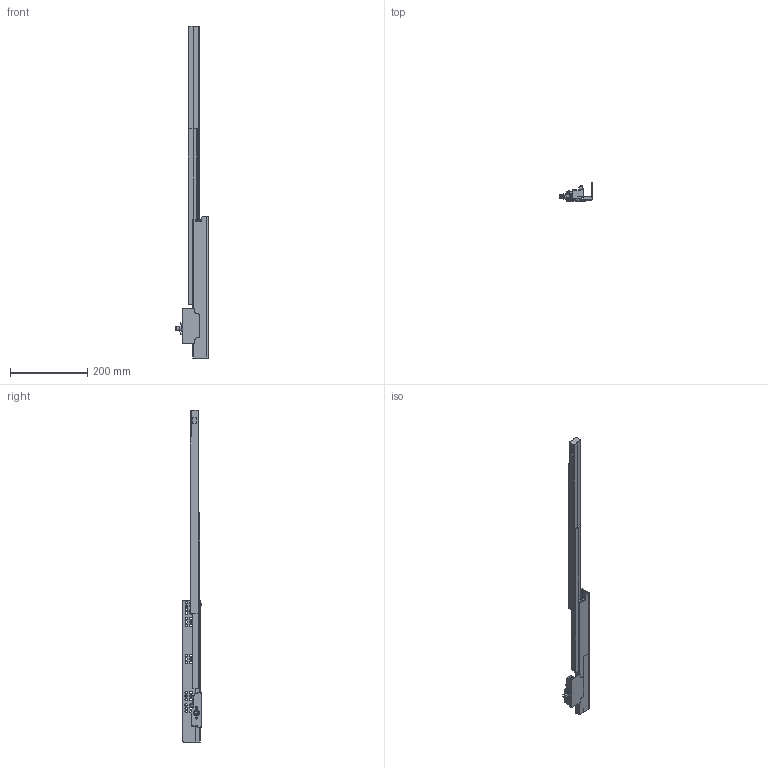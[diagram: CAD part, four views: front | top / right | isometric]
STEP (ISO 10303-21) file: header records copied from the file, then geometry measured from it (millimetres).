
FILE_DESCRIPTION (( 'STEP AP203' ), '1' );
FILE_NAME ('TF10550H-R-DTC3D-open.STEP', '2021-06-05T06:17:52', ( 'df' ), ( 'Microsoft' ), 'SwSTEP 2.0', 'SolidWorks 2018', '' );
FILE_SCHEMA (( 'CONFIG_CONTROL_DESIGN' ));
Length unit declared in the file: millimetre
Products named in the file (1): TF10550H-R-DTC3D-open
Bounding box: 83.3 x 48 x 861.8 mm (x, y, z)
Volume: 528835.7 mm3; surface area: 147889.7 mm2
Topology: 1 solids, 4 shells, 522 faces, 1347 edges, 832 vertices
Faces by surface type: cylinder 250, plane 164, bspline 102, sphere 4, torus 2
Entity records: 18128 total; most frequent: CARTESIAN_POINT 5561, ORIENTED_EDGE 2672, DIRECTION 2587, EDGE_CURVE 1336, AXIS2_PLACEMENT_3D 964, VERTEX_POINT 832, LINE 659, VECTOR 659
